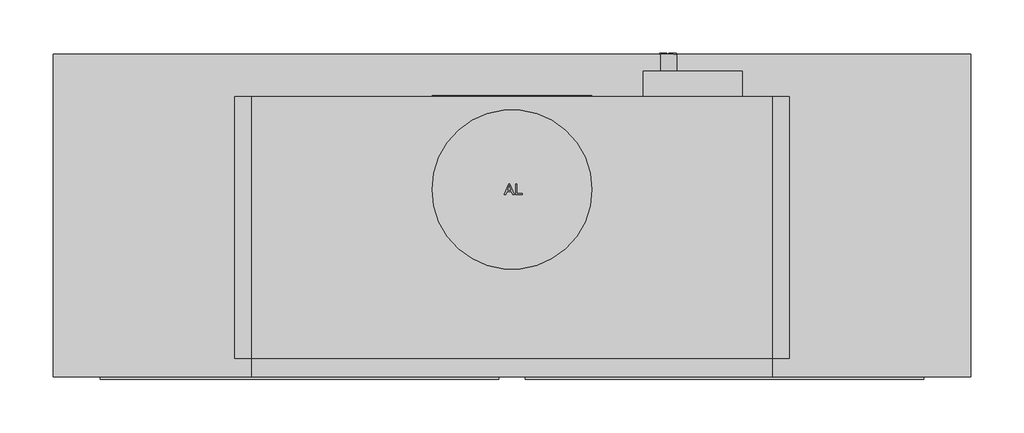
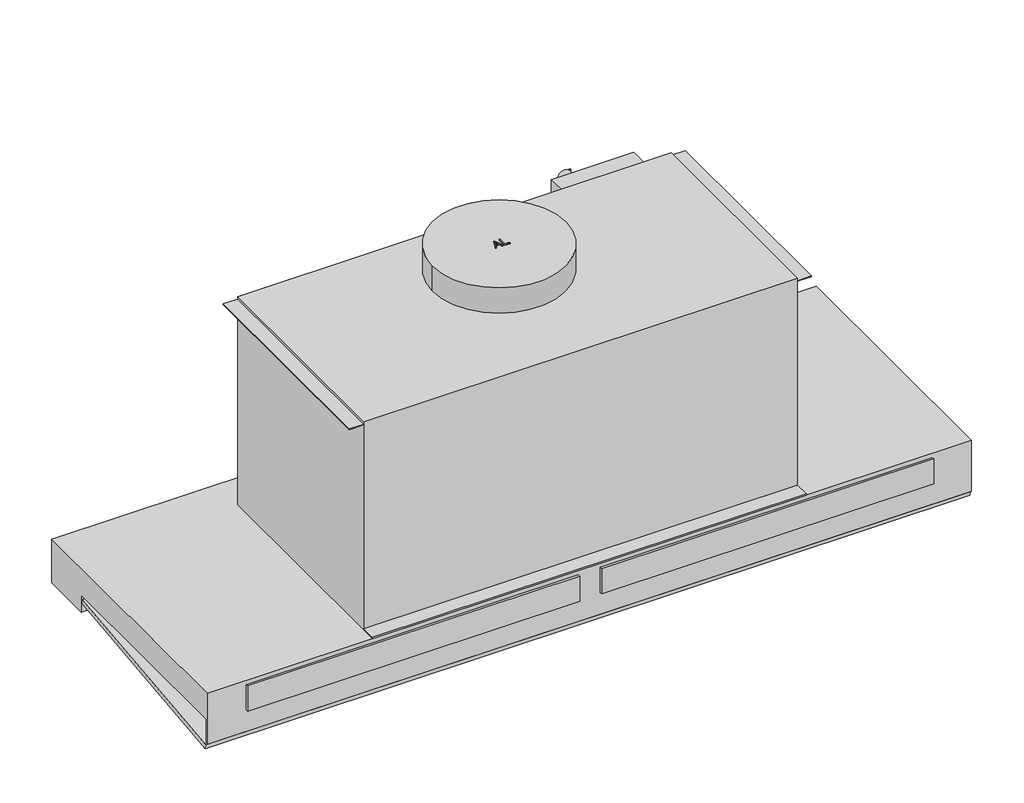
# Not in any storey: 1 proxy.
"""IFC4 building model written with IfcOpenShell, lengths in millimetres."""

from ifc_helpers import new_model, si_unit, origin, place, context, project, spatial, transform, mapped, element, save
from components import specialty_equipment_05735b6a

model = new_model("IFC4")

# Units and contexts
model_context = context("Model", 3, world=origin())
ifc_project = project(units=[si_unit("LENGTHUNIT", "METRE", prefix="MILLI")], contexts=[model_context])

# Site, building
site = spatial("IfcSite", under=ifc_project)
building = spatial("IfcBuilding", under=site)

# Proxy
placement = place(None, origin())
specialty_equipment_shape = specialty_equipment_05735b6a(model_context)
element("IfcBuildingElementProxy", 1, Name="12011370_TR_DAS4940_GLTR : 28S4940T_TR_12011370_DAS4940_GLTR", ObjectType="12011370_TR_DAS4940_GLTR : 28S4940T_TR_12011370_DAS4940_GLTR", at=placement, inside=building, context=model_context, shape_type="MappedRepresentation", body=[
    mapped(specialty_equipment_shape, transform((0.0, 0.0, 0.0), x_axis=(1.0, 0.0, 0.0), y_axis=(0.0, 1.0, 0.0), z_axis=(0.0, 0.0, 1.0))),
])

save(model, "model.ifc")
